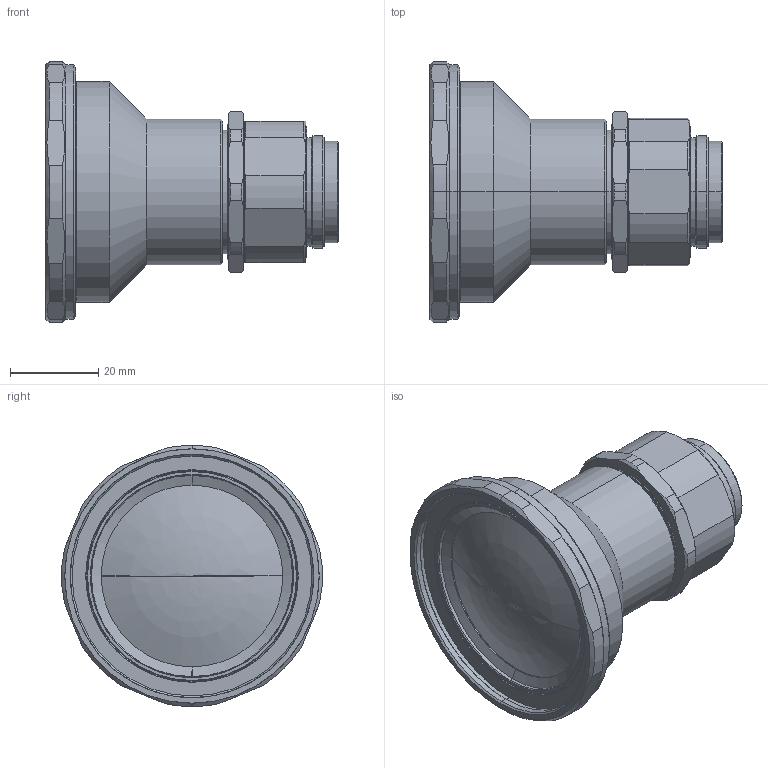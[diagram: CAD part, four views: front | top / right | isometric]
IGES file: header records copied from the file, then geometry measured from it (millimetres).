
Start section: SolidWorks IGES file using analytic representation for surfaces
Global section: file name: C:\Users\tsuji_vst\Documents\【作業フォルダ】\【3D】\00 VST\MCH1\VS-MC08H1\VS-MC08H1.IGS; native system: SolidWorks 2018; preprocessor: SolidWorks 2018; author: tsuji_vst; date: 181204.163326; units: millimetre
Bounding box: 66.1 x 58.86 x 59 mm (x, y, z)
Surface area: 14326.7 mm2 (no closed solid volume)
Topology: 0 solids, 0 shells, 164 faces, 2248 edges, 2247 vertices
Faces by surface type: revolution 128, bspline 36
